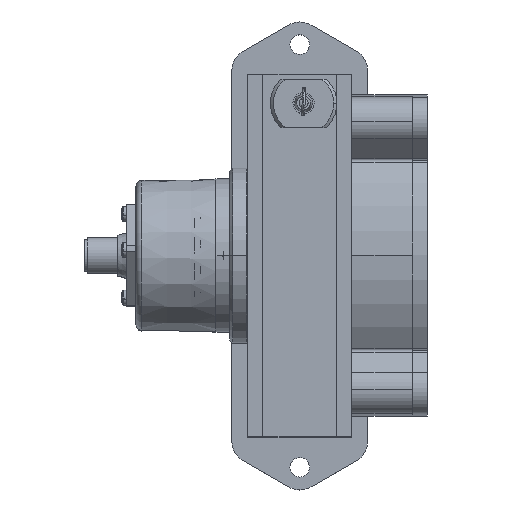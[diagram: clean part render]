
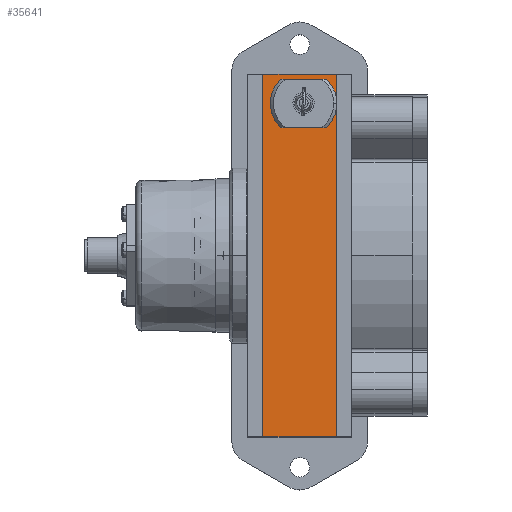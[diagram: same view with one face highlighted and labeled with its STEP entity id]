
A CAD part, top view. The second image highlights one B-rep face of the part: STEP entity #35641.
In plain terms, the highlighted planar face has unit normal (0, 0, 1).
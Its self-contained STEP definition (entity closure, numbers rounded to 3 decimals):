
#823 = DIRECTION ( 'NONE',  ( 1., 0., 0. ) ) ;
#824 = DIRECTION ( 'NONE',  ( 0., 0., 1. ) ) ;
#825 = CARTESIAN_POINT ( 'NONE',  ( 5.5, 36.447, 68.584 ) ) ;
#826 = AXIS2_PLACEMENT_3D ( 'NONE', #825, #824, #823 ) ;
#831 = CIRCLE ( 'NONE', #826, 1.6 ) ;
#891 = ORIENTED_EDGE ( 'NONE', *, *, #27252, .F. ) ;
#1133 = VERTEX_POINT ( 'NONE', #10358 ) ;
#1304 = ORIENTED_EDGE ( 'NONE', *, *, #34362, .F. ) ;
#1311 = DIRECTION ( 'NONE',  ( 1., 0., 0. ) ) ;
#1312 = DIRECTION ( 'NONE',  ( 0., 0., 1. ) ) ;
#1313 = CARTESIAN_POINT ( 'NONE',  ( 5.5, 36.447, 68.584 ) ) ;
#1314 = AXIS2_PLACEMENT_3D ( 'NONE', #1313, #1312, #1311 ) ;
#1315 = CIRCLE ( 'NONE', #1314, 1.6 ) ;
#1463 = EDGE_CURVE ( 'NONE', #33567, #1133, #11967, .T. ) ;
#1842 = EDGE_CURVE ( 'NONE', #1133, #27159, #12088, .T. ) ;
#1843 = ORIENTED_EDGE ( 'NONE', *, *, #9938, .F. ) ;
#1846 = ORIENTED_EDGE ( 'NONE', *, *, #1842, .T. ) ;
#1847 = ORIENTED_EDGE ( 'NONE', *, *, #31035, .F. ) ;
#1849 = EDGE_LOOP ( 'NONE', ( #1896, #1843 ) ) ;
#1851 = EDGE_LOOP ( 'NONE', ( #1847, #1853 ) ) ;
#1853 = ORIENTED_EDGE ( 'NONE', *, *, #31955, .F. ) ;
#1855 = EDGE_LOOP ( 'NONE', ( #1859, #1897 ) ) ;
#1859 = ORIENTED_EDGE ( 'NONE', *, *, #11716, .F. ) ;
#1896 = ORIENTED_EDGE ( 'NONE', *, *, #32304, .F. ) ;
#1897 = ORIENTED_EDGE ( 'NONE', *, *, #27828, .F. ) ;
#1900 = ORIENTED_EDGE ( 'NONE', *, *, #1463, .T. ) ;
#3119 = CARTESIAN_POINT ( 'NONE',  ( 7.1, 36.447, 68.584 ) ) ;
#3356 = CARTESIAN_POINT ( 'NONE',  ( 3.9, 36.447, 68.584 ) ) ;
#4358 = CARTESIAN_POINT ( 'NONE',  ( 24.5, 46.147, 68.584 ) ) ;
#4412 = DIRECTION ( 'NONE',  ( 1., 0., 0. ) ) ;
#4413 = VECTOR ( 'NONE', #4412, 1000. ) ;
#4414 = CARTESIAN_POINT ( 'NONE',  ( 0., 46.147, 68.584 ) ) ;
#4415 = LINE ( 'NONE', #4414, #4413 ) ;
#4416 = CARTESIAN_POINT ( 'NONE',  ( 0., 46.147, 68.584 ) ) ;
#9390 = VERTEX_POINT ( 'NONE', #13439 ) ;
#9938 = EDGE_CURVE ( 'NONE', #25937, #9390, #13511, .T. ) ;
#10128 = DIRECTION ( 'NONE',  ( 1., 0., 0. ) ) ;
#10129 = DIRECTION ( 'NONE',  ( 0., 0., -1. ) ) ;
#10131 = CARTESIAN_POINT ( 'NONE',  ( 0., -73.853, 68.584 ) ) ;
#10132 = AXIS2_PLACEMENT_3D ( 'NONE', #10131, #10129, #10128 ) ;
#10136 = PLANE ( 'NONE',  #10132 ) ;
#10165 = FACE_BOUND ( 'NONE', #1851, .T. ) ;
#10167 = FACE_BOUND ( 'NONE', #1855, .T. ) ;
#10169 = FACE_BOUND ( 'NONE', #1849, .T. ) ;
#10171 = FACE_OUTER_BOUND ( 'NONE', #35446, .T. ) ;
#10358 = CARTESIAN_POINT ( 'NONE',  ( 24.5, -73.853, 68.584 ) ) ;
#11235 = CARTESIAN_POINT ( 'NONE',  ( 19., 36.447, 68.584 ) ) ;
#11710 = VERTEX_POINT ( 'NONE', #16107 ) ;
#11716 = EDGE_CURVE ( 'NONE', #11718, #11710, #16103, .T. ) ;
#11718 = VERTEX_POINT ( 'NONE', #16096 ) ;
#11964 = DIRECTION ( 'NONE',  ( 1., 0., 0. ) ) ;
#11965 = VECTOR ( 'NONE', #11964, 1000. ) ;
#11966 = CARTESIAN_POINT ( 'NONE',  ( 0., -73.853, 68.584 ) ) ;
#11967 = LINE ( 'NONE', #11966, #11965 ) ;
#12085 = DIRECTION ( 'NONE',  ( 0., 1., 0. ) ) ;
#12086 = VECTOR ( 'NONE', #12085, 1000. ) ;
#12087 = CARTESIAN_POINT ( 'NONE',  ( 24.5, 46.147, 68.584 ) ) ;
#12088 = LINE ( 'NONE', #12087, #12086 ) ;
#13439 = CARTESIAN_POINT ( 'NONE',  ( 8., 36.447, 68.584 ) ) ;
#13507 = DIRECTION ( 'NONE',  ( -1., 0., 0. ) ) ;
#13508 = DIRECTION ( 'NONE',  ( 0., 0., 1. ) ) ;
#13509 = CARTESIAN_POINT ( 'NONE',  ( 13.5, 36.447, 68.584 ) ) ;
#13510 = AXIS2_PLACEMENT_3D ( 'NONE', #13509, #13508, #13507 ) ;
#13511 = CIRCLE ( 'NONE', #13510, 5.5 ) ;
#14333 = CARTESIAN_POINT ( 'NONE',  ( 0., -73.853, 68.584 ) ) ;
#15151 = DIRECTION ( 'NONE',  ( 0., 1., 0. ) ) ;
#15152 = VECTOR ( 'NONE', #15151, 1000. ) ;
#15153 = CARTESIAN_POINT ( 'NONE',  ( 0., -73.853, 68.584 ) ) ;
#15154 = LINE ( 'NONE', #15153, #15152 ) ;
#16096 = CARTESIAN_POINT ( 'NONE',  ( 23.1, 36.447, 68.584 ) ) ;
#16098 = DIRECTION ( 'NONE',  ( 1., 0., 0. ) ) ;
#16099 = DIRECTION ( 'NONE',  ( 0., 0., 1. ) ) ;
#16100 = CARTESIAN_POINT ( 'NONE',  ( 21.5, 36.447, 68.584 ) ) ;
#16101 = AXIS2_PLACEMENT_3D ( 'NONE', #16100, #16099, #16098 ) ;
#16103 = CIRCLE ( 'NONE', #16101, 1.6 ) ;
#16107 = CARTESIAN_POINT ( 'NONE',  ( 19.9, 36.447, 68.584 ) ) ;
#25450 = DIRECTION ( 'NONE',  ( -1., 0., 0. ) ) ;
#25451 = DIRECTION ( 'NONE',  ( 0., 0., 1. ) ) ;
#25452 = CARTESIAN_POINT ( 'NONE',  ( 13.5, 36.447, 68.584 ) ) ;
#25453 = AXIS2_PLACEMENT_3D ( 'NONE', #25452, #25451, #25450 ) ;
#25459 = CIRCLE ( 'NONE', #25453, 5.5 ) ;
#25937 = VERTEX_POINT ( 'NONE', #11235 ) ;
#27159 = VERTEX_POINT ( 'NONE', #4358 ) ;
#27172 = VERTEX_POINT ( 'NONE', #4416 ) ;
#27252 = EDGE_CURVE ( 'NONE', #27172, #27159, #4415, .T. ) ;
#27828 = EDGE_CURVE ( 'NONE', #11710, #11718, #29964, .T. ) ;
#29959 = DIRECTION ( 'NONE',  ( 1., 0., 0. ) ) ;
#29961 = DIRECTION ( 'NONE',  ( 0., 0., 1. ) ) ;
#29962 = CARTESIAN_POINT ( 'NONE',  ( 21.5, 36.447, 68.584 ) ) ;
#29963 = AXIS2_PLACEMENT_3D ( 'NONE', #29962, #29961, #29959 ) ;
#29964 = CIRCLE ( 'NONE', #29963, 1.6 ) ;
#31035 = EDGE_CURVE ( 'NONE', #31091, #31134, #831, .T. ) ;
#31091 = VERTEX_POINT ( 'NONE', #3119 ) ;
#31134 = VERTEX_POINT ( 'NONE', #3356 ) ;
#31955 = EDGE_CURVE ( 'NONE', #31134, #31091, #1315, .T. ) ;
#32304 = EDGE_CURVE ( 'NONE', #9390, #25937, #25459, .T. ) ;
#33567 = VERTEX_POINT ( 'NONE', #14333 ) ;
#34362 = EDGE_CURVE ( 'NONE', #33567, #27172, #15154, .T. ) ;
#35446 = EDGE_LOOP ( 'NONE', ( #891, #1304, #1900, #1846 ) ) ;
#35641 = ADVANCED_FACE ( 'NONE', ( #10171, #10169, #10167, #10165 ), #10136, .F. ) ;
